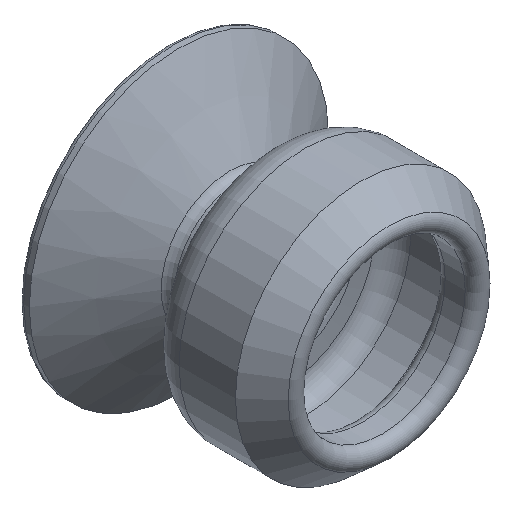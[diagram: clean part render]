
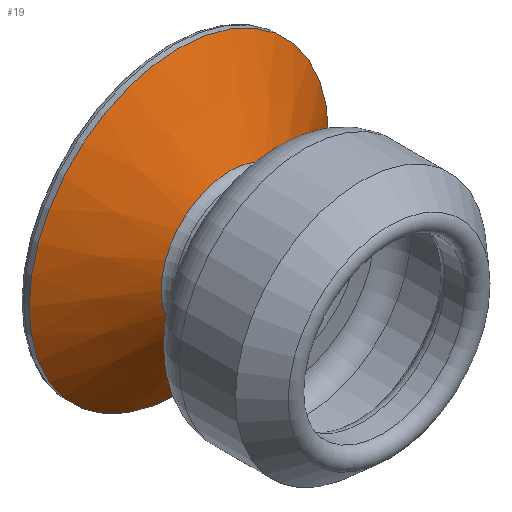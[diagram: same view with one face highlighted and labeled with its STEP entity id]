
A CAD part, isometric view. The second image highlights one B-rep face of the part: STEP entity #19.
In plain terms, the highlighted conical face has half-angle 57.788 degrees and reference radius 7.254 mm.
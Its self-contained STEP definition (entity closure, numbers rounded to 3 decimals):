
#19 = ADVANCED_FACE ( 'NONE', ( #1867, #877 ), #716, .T. ) ;
#33 = DIRECTION ( 'NONE',  ( 0., -1., 0. ) ) ;
#42 = DIRECTION ( 'NONE',  ( 0., 0., -1. ) ) ;
#119 = EDGE_CURVE ( 'NONE', #752, #752, #230, .T. ) ;
#228 = ORIENTED_EDGE ( 'NONE', *, *, #928, .F. ) ;
#230 = CIRCLE ( 'NONE', #1390, 15.8 ) ;
#262 = AXIS2_PLACEMENT_3D ( 'NONE', #1081, #33, #1347 ) ;
#508 = VERTEX_POINT ( 'NONE', #639 ) ;
#639 = CARTESIAN_POINT ( 'NONE',  ( 238.594, 174.409, -7.254 ) ) ;
#648 = DIRECTION ( 'NONE',  ( 0., -1., 0. ) ) ;
#716 = CONICAL_SURFACE ( 'NONE', #960, 7.254, 1.009 ) ;
#752 = VERTEX_POINT ( 'NONE', #1614 ) ;
#877 = FACE_OUTER_BOUND ( 'NONE', #1440, .T. ) ;
#928 = EDGE_CURVE ( 'NONE', #508, #508, #1142, .T. ) ;
#960 = AXIS2_PLACEMENT_3D ( 'NONE', #1581, #1157, #1848 ) ;
#963 = ORIENTED_EDGE ( 'NONE', *, *, #119, .T. ) ;
#1081 = CARTESIAN_POINT ( 'NONE',  ( 238.594, 174.409, 0. ) ) ;
#1107 = EDGE_LOOP ( 'NONE', ( #228 ) ) ;
#1142 = CIRCLE ( 'NONE', #262, 7.254 ) ;
#1157 = DIRECTION ( 'NONE',  ( 0., 1., 0. ) ) ;
#1347 = DIRECTION ( 'NONE',  ( 0., 0., -1. ) ) ;
#1390 = AXIS2_PLACEMENT_3D ( 'NONE', #1654, #648, #42 ) ;
#1440 = EDGE_LOOP ( 'NONE', ( #963 ) ) ;
#1581 = CARTESIAN_POINT ( 'NONE',  ( 238.594, 174.409, 0. ) ) ;
#1614 = CARTESIAN_POINT ( 'NONE',  ( 238.594, 179.794, -15.8 ) ) ;
#1654 = CARTESIAN_POINT ( 'NONE',  ( 238.594, 179.794, 0. ) ) ;
#1848 = DIRECTION ( 'NONE',  ( 0., 0., 1. ) ) ;
#1867 = FACE_BOUND ( 'NONE', #1107, .T. ) ;
